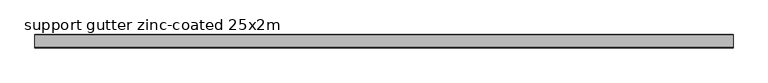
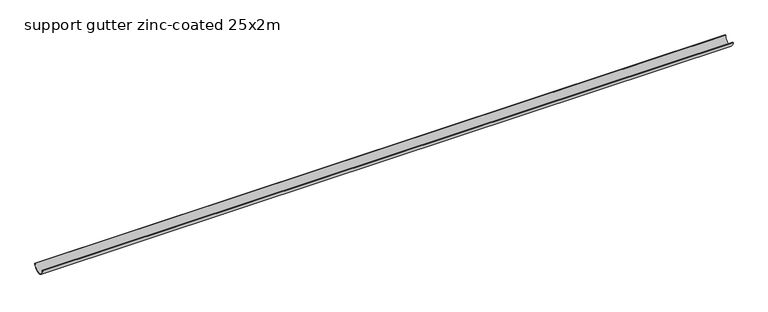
"""IFC4 building model written with IfcOpenShell, lengths in millimetres: valve geometry, PP-R_Support gutter zinc-coated : support gutter zinc-coated 25x2m."""

from ifc_helpers import new_model, si_unit, point, frame, frame_2d, origin, place, context, project, spatial, polyline, circle_curve, trimmed, segment, composite_curve, outline, extrude, source, transform, mapped, element, save


def support_gutter_zinc_coated_25x2m_91b4fca4(model_context):
    return source(origin(), model_context, "Body", "SweptSolid", [
        extrude(outline(composite_curve([segment(trimmed(circle_curve(frame_2d((0.0, -13.5)), 13.5), [point((-13.5, -13.5))], [point((13.5, -13.5))], True, "CARTESIAN"), True, "CONTINUOUS"), segment(polyline([(13.5, -13.5), (14.5, -13.5)]), True, "CONTINUOUS"), segment(trimmed(circle_curve(frame_2d((0.0, -13.5)), 14.5), [point((14.5, -13.5))], [point((-14.5, -13.5))], False, "CARTESIAN"), True, "CONTINUOUS"), segment(polyline([(-14.5, -13.5), (-13.5, -13.5)]), True, "CONTINUOUS")], self_intersect=False)), frame((9.5156627, 0.0, 0.0), z_axis=(1.0, 0.0, 0.0), x_axis=(0.0, 1.0, 0.0)), (0.0, 0.0, 1.0), 1500.0),
    ])


if __name__ == "__main__":
    model = new_model("IFC4")
    model_context = context("Model", 3, world=origin())
    ifc_project = project(units=[si_unit("LENGTHUNIT", "METRE", prefix="MILLI")], contexts=[model_context])
    site = spatial("IfcSite", under=ifc_project)
    building = spatial("IfcBuilding", under=site)
    placement = place(None, origin())
    support_gutter_zinc_coated_25x2m_shape = support_gutter_zinc_coated_25x2m_91b4fca4(model_context)
    element("IfcValve", 1, ObjectType="PP-R_Support gutter zinc-coated : support gutter zinc-coated 25x2m", at=placement, inside=building, context=model_context, shape_type="MappedRepresentation", body=[
        mapped(support_gutter_zinc_coated_25x2m_shape, transform((0.0, 0.0, 0.0), x_axis=(1.0, 0.0, 0.0), y_axis=(0.0, 1.0, 0.0), z_axis=(0.0, 0.0, 1.0))),
    ])
    save(model, "model.ifc")
